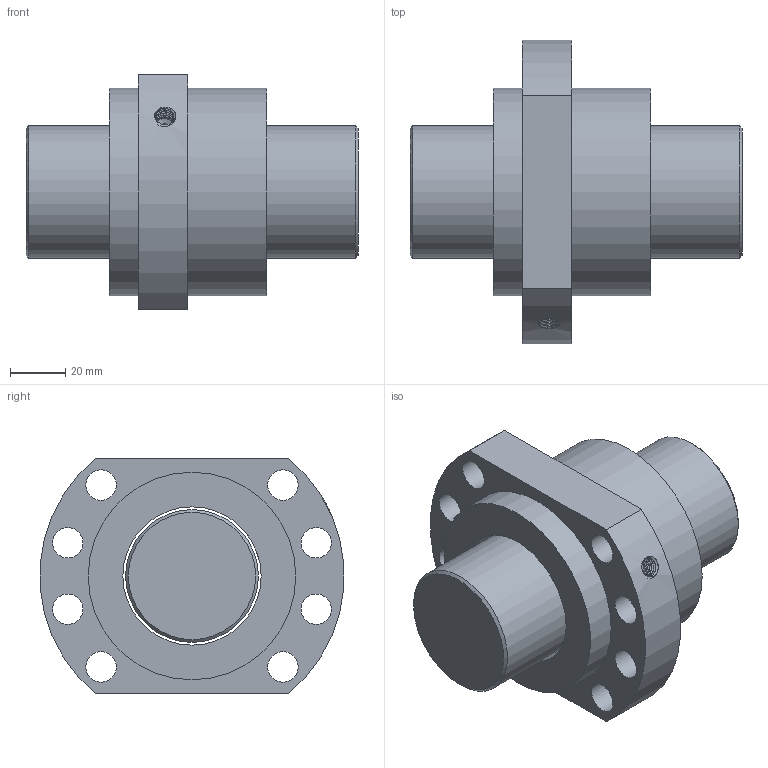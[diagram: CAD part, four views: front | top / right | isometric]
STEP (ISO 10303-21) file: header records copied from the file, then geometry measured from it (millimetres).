
FILE_DESCRIPTION(/* description */ ('Unknown','CAx-IF Rec.Pracs.---Representation and Presentation of Product Manufacturing Information (PMI)---4.0---2014-10-13','CAx-IF Rec.Pracs.---3D Tessellated Geometry---0.4---2014-09-14','2;1'),/* implementation_level */ '2;1');
FILE_NAME(/* name */ 'SFA5010-3.8',/* time_stamp */ '2020-12-08T11:38:59+08:00',/* author */ ('Unknown'),/* organization */ ('Unknown'),/* preprocessor_version */ 'ST-DEVELOPER v16.7',/* originating_system */ 'Solid Edge',/* authorisation */ 'Unknown');
FILE_SCHEMA (('AP242_MANAGED_MODEL_BASED_3D_ENGINEERING_MIM_LF { 1 0 10303 442 1 1 4 }'));
Length unit declared in the file: millimetre
Products named in the file (1): SFA5010-3.8
Bounding box: 120 x 109.65 x 85 mm (x, y, z)
Volume: 412631.9 mm3; surface area: 62375.2 mm2
Topology: 2 solids, 2 shells, 32 faces, 76 edges, 50 vertices
Faces by surface type: cylinder 18, plane 9, cone 3, bspline 2
Full cylindrical faces by diameter (mm): 4 x1, 6.917 x1, 11 x8, 48 x1, 50 x1, 75 x2
Entity records: 2736 total; most frequent: CARTESIAN_POINT 1976, DIRECTION 146, ORIENTED_EDGE 108, EDGE_LOOP 71, FACE_BOUND 71, AXIS2_PLACEMENT_3D 70, EDGE_CURVE 54, VERTEX_POINT 45
